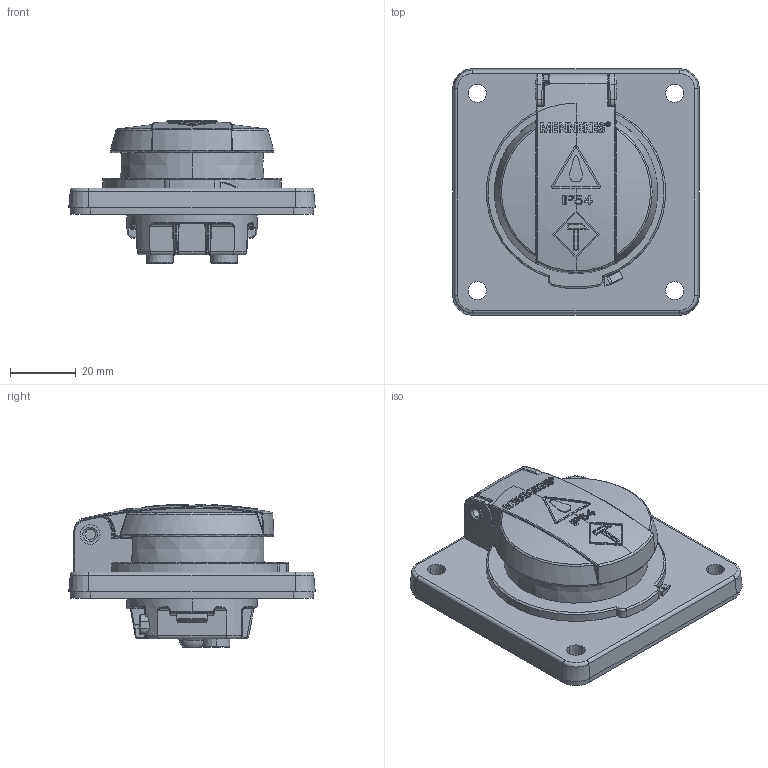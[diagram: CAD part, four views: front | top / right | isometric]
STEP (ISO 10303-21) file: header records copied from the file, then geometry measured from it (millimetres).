
FILE_DESCRIPTION((''),'2;1');
FILE_NAME('11032F_SW0001','2026-01-22T12:13:36',('chylka001'),('MENNEKES'),'CREO PARAMETRIC BY PTC INC, 2024153','CREO PARAMETRIC BY PTC INC, 2024153','');
FILE_SCHEMA(('AUTOMOTIVE_DESIGN { 1 0 10303 214 1 1 1 1 }'));
Products named in the file (1): 11032F_SW0001
Bounding box: 75 x 75 x 43.68 mm (x, y, z)
Volume: 93189.2 mm3; surface area: 21508.8 mm2
Topology: 1 solids, 1 shells, 1021 faces, 2607 edges, 1632 vertices
Faces by surface type: plane 383, cylinder 235, bspline 149, torus 86, extrusion 71, sphere 52, cone 45
Entity records: 57173 total; most frequent: CARTESIAN_POINT 14988, ORIENTED_EDGE 5210, DIRECTION 4689, PRESENTATION_STYLE_ASSIGNMENT 3698, STYLED_ITEM 2677, CURVE_STYLE 2676, EDGE_CURVE 2605, AXIS2_PLACEMENT_3D 1862
